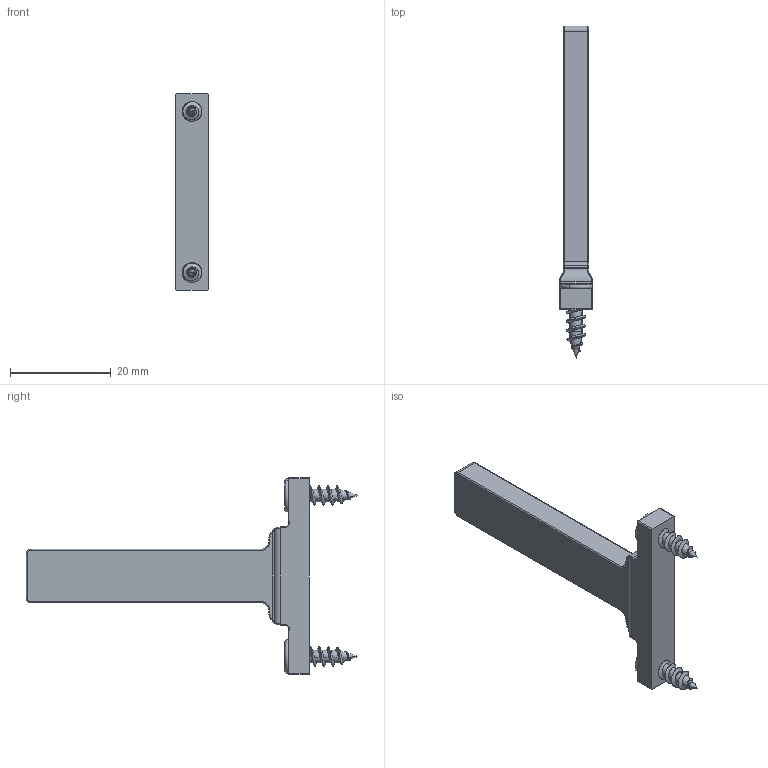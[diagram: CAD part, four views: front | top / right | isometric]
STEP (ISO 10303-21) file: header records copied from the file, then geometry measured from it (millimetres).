
FILE_DESCRIPTION (( 'STEP AP203' ), '1' );
FILE_NAME ('HT11011.STEP', '2020-12-23T06:55:27', ( 'Users' ), ( 'Microsoft' ), 'SwSTEP 2.0', 'SolidWorks 2018', '' );
FILE_SCHEMA (( 'CONFIG_CONTROL_DESIGN' ));
Length unit declared in the file: millimetre
Products named in the file (1): HT11011
Bounding box: 6.59 x 65.9 x 39 mm (x, y, z)
Volume: 4245.9 mm3; surface area: 2872.9 mm2
Topology: 2 solids, 2 shells, 194 faces, 495 edges, 305 vertices
Faces by surface type: cylinder 60, plane 54, torus 42, bspline 28, cone 10
Entity records: 9421 total; most frequent: CARTESIAN_POINT 4960, ORIENTED_EDGE 982, DIRECTION 842, EDGE_CURVE 491, AXIS2_PLACEMENT_3D 323, VERTEX_POINT 305, EDGE_LOOP 198, VECTOR 196
